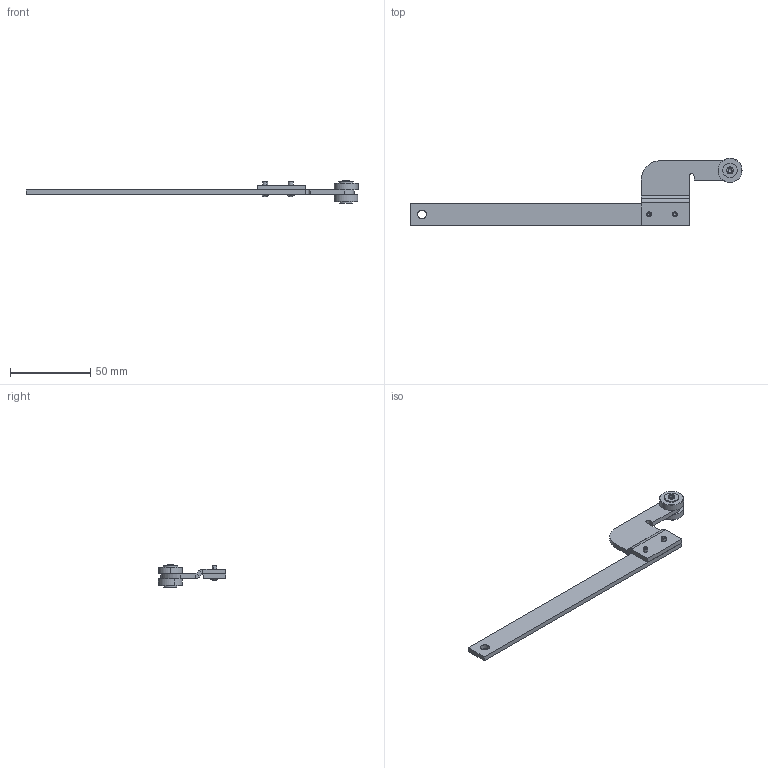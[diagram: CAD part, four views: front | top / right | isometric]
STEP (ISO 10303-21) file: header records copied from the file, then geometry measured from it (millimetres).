
FILE_DESCRIPTION (( 'STEP AP214' ), '1' );
FILE_NAME ('1C.AB31-5-L.STEP', '2025-12-04T12:25:25', ( '' ), ( '' ), 'SwSTEP 2.0', 'SolidWorks 2021', '' );
FILE_SCHEMA (( 'AUTOMOTIVE_DESIGN' ));
Length unit declared in the file: millimetre
Products named in the file (8): A.007462_AB-31; 1C.AB31-5-L; DIN 6791_fi3x8; P.052723_AB-5; 1C.ROLKA.02.04.00_A-zak; 1C.905.001_A; P.052724_AB-31; DIN 125_M4
Assembly tree (9 placements, depth 3):
  1C.AB31-5-L
    P.052723_AB-5
    A.007462_AB-31
      P.052724_AB-31
      1C.905.001_A  x2
      1C.ROLKA.02.04.00_A-zak
      DIN 125_M4
    DIN 6791_fi3x8  x2
Bounding box: 207.5 x 42 x 14 mm (x, y, z)
Volume: 13543.5 mm3; surface area: 11685.8 mm2
Topology: 8 solids, 8 shells, 99 faces, 216 edges, 133 vertices
Faces by surface type: cylinder 46, plane 39, cone 6, torus 4, sphere 4
Entity records: 2582 total; most frequent: DIRECTION 448, CARTESIAN_POINT 381, ORIENTED_EDGE 352, AXIS2_PLACEMENT_3D 178, EDGE_CURVE 176, VERTEX_POINT 111, EDGE_LOOP 101, VECTOR 92
